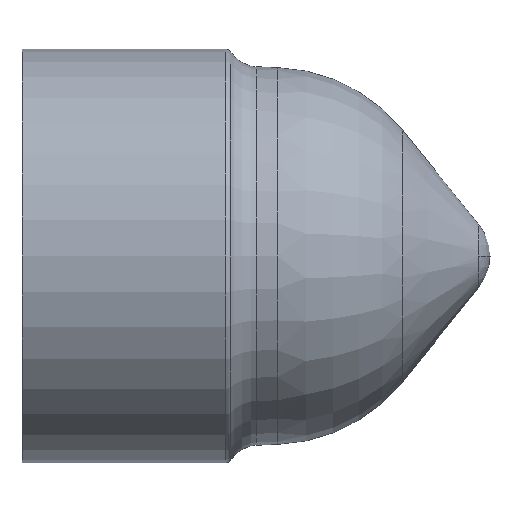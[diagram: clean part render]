
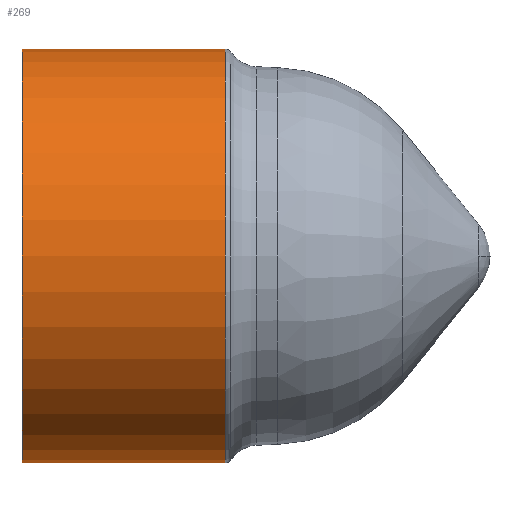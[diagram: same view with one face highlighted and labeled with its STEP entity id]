
A CAD part, left-side view. The second image highlights one B-rep face of the part: STEP entity #269.
In plain terms, the highlighted cylindrical face has radius 7.811 mm (diameter 15.621 mm), a partial arc.
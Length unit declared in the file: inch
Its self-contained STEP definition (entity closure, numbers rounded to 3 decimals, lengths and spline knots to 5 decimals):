
#108 = CARTESIAN_POINT ( 'NONE',  ( 0., 0.03764, 0. ) ) ;
#269 = ADVANCED_FACE ( 'NONE', ( #4796 ), #3900, .T. ) ;
#401 = CARTESIAN_POINT ( 'NONE',  ( 0., 0.34, 0. ) ) ;
#495 = DIRECTION ( 'NONE',  ( 0., 0., -1. ) ) ;
#624 = VERTEX_POINT ( 'NONE', #663 ) ;
#663 = CARTESIAN_POINT ( 'NONE',  ( 0., 0.34, -0.3075 ) ) ;
#676 = CARTESIAN_POINT ( 'NONE',  ( 0., 1.80924, -0.3075 ) ) ;
#687 = EDGE_LOOP ( 'NONE', ( #4094, #1363, #1209, #5768 ) ) ;
#1209 = ORIENTED_EDGE ( 'NONE', *, *, #1425, .T. ) ;
#1363 = ORIENTED_EDGE ( 'NONE', *, *, #5501, .T. ) ;
#1412 = CARTESIAN_POINT ( 'NONE',  ( 0., 1.80924, 0.3075 ) ) ;
#1425 = EDGE_CURVE ( 'NONE', #2242, #4730, #5405, .T. ) ;
#1471 = LINE ( 'NONE', #676, #2371 ) ;
#1895 = CARTESIAN_POINT ( 'NONE',  ( 0., 0.03764, -0.3075 ) ) ;
#2177 = DIRECTION ( 'NONE',  ( 0., 1., 0. ) ) ;
#2242 = VERTEX_POINT ( 'NONE', #5300 ) ;
#2371 = VECTOR ( 'NONE', #4201, 39.37008 ) ;
#2536 = EDGE_CURVE ( 'NONE', #624, #4730, #2798, .T. ) ;
#2798 = CIRCLE ( 'NONE', #3267, 0.3075 ) ;
#3267 = AXIS2_PLACEMENT_3D ( 'NONE', #401, #2177, #3406 ) ;
#3406 = DIRECTION ( 'NONE',  ( 0., 0., 1. ) ) ;
#3524 = DIRECTION ( 'NONE',  ( 0., 0., 1. ) ) ;
#3542 = CARTESIAN_POINT ( 'NONE',  ( 0., 0.34, 0.3075 ) ) ;
#3577 = DIRECTION ( 'NONE',  ( 0., 1., 0. ) ) ;
#3900 = CYLINDRICAL_SURFACE ( 'NONE', #4258, 0.3075 ) ;
#3954 = CARTESIAN_POINT ( 'NONE',  ( 0., 1.80924, 0. ) ) ;
#4031 = EDGE_CURVE ( 'NONE', #5717, #624, #1471, .T. ) ;
#4094 = ORIENTED_EDGE ( 'NONE', *, *, #4031, .F. ) ;
#4201 = DIRECTION ( 'NONE',  ( 0., 1., 0. ) ) ;
#4247 = VECTOR ( 'NONE', #4966, 39.37008 ) ;
#4258 = AXIS2_PLACEMENT_3D ( 'NONE', #3954, #3577, #3524 ) ;
#4475 = DIRECTION ( 'NONE',  ( 0., 1., 0. ) ) ;
#4730 = VERTEX_POINT ( 'NONE', #3542 ) ;
#4796 = FACE_OUTER_BOUND ( 'NONE', #687, .T. ) ;
#4885 = AXIS2_PLACEMENT_3D ( 'NONE', #108, #4475, #495 ) ;
#4966 = DIRECTION ( 'NONE',  ( 0., 1., 0. ) ) ;
#5076 = CIRCLE ( 'NONE', #4885, 0.3075 ) ;
#5300 = CARTESIAN_POINT ( 'NONE',  ( 0., 0.03764, 0.3075 ) ) ;
#5405 = LINE ( 'NONE', #1412, #4247 ) ;
#5501 = EDGE_CURVE ( 'NONE', #5717, #2242, #5076, .T. ) ;
#5717 = VERTEX_POINT ( 'NONE', #1895 ) ;
#5768 = ORIENTED_EDGE ( 'NONE', *, *, #2536, .F. ) ;
